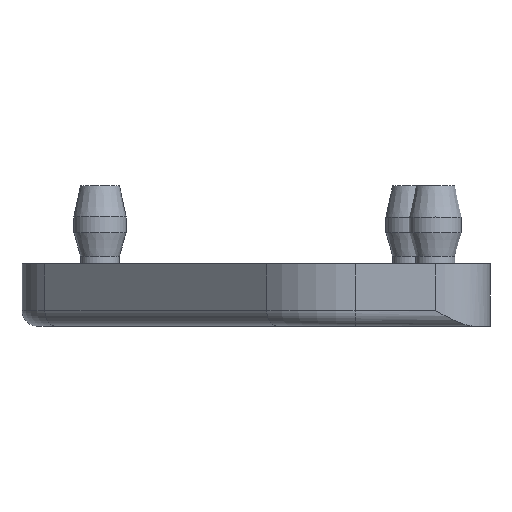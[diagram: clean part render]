
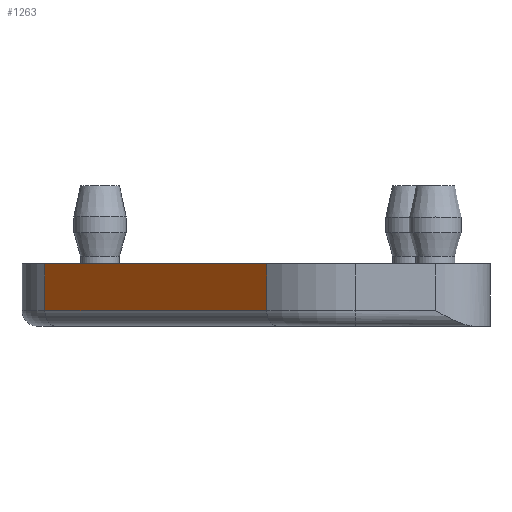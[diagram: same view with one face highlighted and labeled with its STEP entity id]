
A CAD part, front view. The second image highlights one B-rep face of the part: STEP entity #1263.
In plain terms, the highlighted planar face has unit normal (-0.707, -0.707, 0).
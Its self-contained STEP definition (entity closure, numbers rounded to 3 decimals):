
#26=PLANE('',#1363);
#64=FACE_OUTER_BOUND('',#132,.T.);
#132=EDGE_LOOP('',(#821,#822,#823,#824));
#283=LINE('',#1923,#381);
#291=LINE('',#1974,#389);
#292=LINE('',#1977,#390);
#293=LINE('',#1978,#391);
#381=VECTOR('',#1514,10.);
#389=VECTOR('',#1548,10.);
#390=VECTOR('',#1551,10.);
#391=VECTOR('',#1552,10.);
#483=VERTEX_POINT('',#1914);
#485=VERTEX_POINT('',#1920);
#496=VERTEX_POINT('',#1972);
#497=VERTEX_POINT('',#1976);
#610=EDGE_CURVE('',#485,#483,#283,.T.);
#627=EDGE_CURVE('',#496,#483,#291,.T.);
#628=EDGE_CURVE('',#496,#497,#292,.T.);
#629=EDGE_CURVE('',#497,#485,#293,.T.);
#821=ORIENTED_EDGE('',*,*,#610,.T.);
#822=ORIENTED_EDGE('',*,*,#627,.F.);
#823=ORIENTED_EDGE('',*,*,#628,.T.);
#824=ORIENTED_EDGE('',*,*,#629,.T.);
#1263=ADVANCED_FACE('',(#64),#26,.F.);
#1363=AXIS2_PLACEMENT_3D('',#1975,#1549,#1550);
#1514=DIRECTION('',(0.707,-0.707,0.));
#1548=DIRECTION('',(0.,0.,-1.));
#1549=DIRECTION('center_axis',(0.707,0.707,0.));
#1550=DIRECTION('ref_axis',(0.,0.,-1.));
#1551=DIRECTION('',(-0.707,0.707,0.));
#1552=DIRECTION('',(0.,0.,-1.));
#1914=CARTESIAN_POINT('',(1.572,-22.291,-3.));
#1920=CARTESIAN_POINT('',(-12.656,-8.063,-3.));
#1923=CARTESIAN_POINT('',(-3.789,-16.93,-3.));
#1972=CARTESIAN_POINT('',(1.572,-22.291,0.));
#1974=CARTESIAN_POINT('',(1.572,-22.291,0.));
#1975=CARTESIAN_POINT('Origin',(1.572,-22.291,0.));
#1976=CARTESIAN_POINT('',(-12.656,-8.063,0.));
#1977=CARTESIAN_POINT('',(1.572,-22.291,0.));
#1978=CARTESIAN_POINT('',(-12.656,-8.063,0.));
